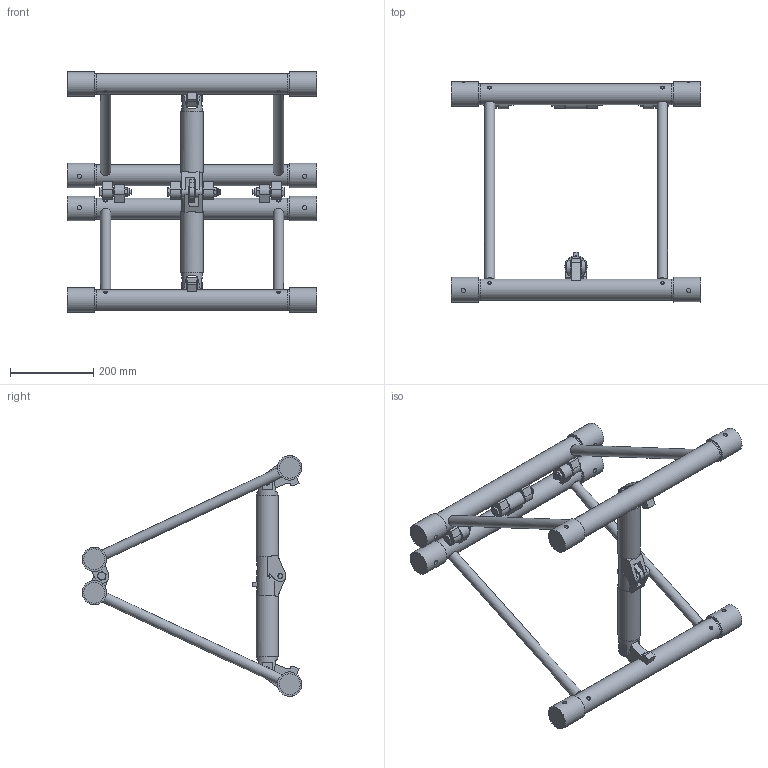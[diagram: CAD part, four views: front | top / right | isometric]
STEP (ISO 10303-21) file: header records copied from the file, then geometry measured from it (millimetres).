
FILE_DESCRIPTION(/* description */ (''),/* implementation_level */ '2;1');
FILE_NAME(/* name */ 'M:\Symbolen_NIEUW\STP\52-er truss\S52F\S52F-L060_111110081.stp',/* time_stamp */ '2017-11-10T10:30:39+01:00',/* author */ ('Kees'),/* organization */ (''),/* preprocessor_version */ 'ST-DEVELOPER v16.13',/* originating_system */ 'Autodesk Inventor 2018',/* authorisation */ '');
FILE_SCHEMA (('AUTOMOTIVE_DESIGN { 1 0 10303 214 3 1 1 }'));
Length unit declared in the file: millimetre
Products named in the file (1): 260008483
Bounding box: 600 x 528.69 x 578.8 mm (x, y, z)
Volume: 7322932.1 mm3; surface area: 1159176 mm2
Topology: 27 solids, 32 shells, 506 faces, 1193 edges, 777 vertices
Faces by surface type: plane 290, cylinder 151, cone 65
Full cylindrical faces by diameter (mm): 10 x8, 12 x10, 12.5 x7, 12.8 x4, 13 x8, 17.4 x6, 24 x4, 25 x4, 50 x10, 54 x2, 58.8 x8
Entity records: 15530 total; most frequent: CARTESIAN_POINT 4104, DIRECTION 2219, ORIENTED_EDGE 2114, EDGE_CURVE 1061, AXIS2_PLACEMENT_3D 859, VERTEX_POINT 756, EDGE_LOOP 701, LINE 501
